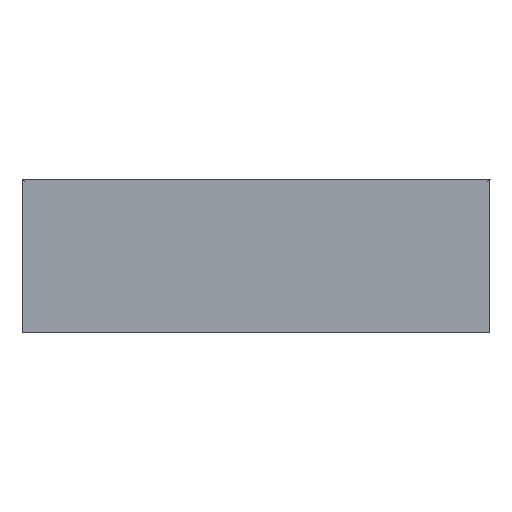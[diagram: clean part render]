
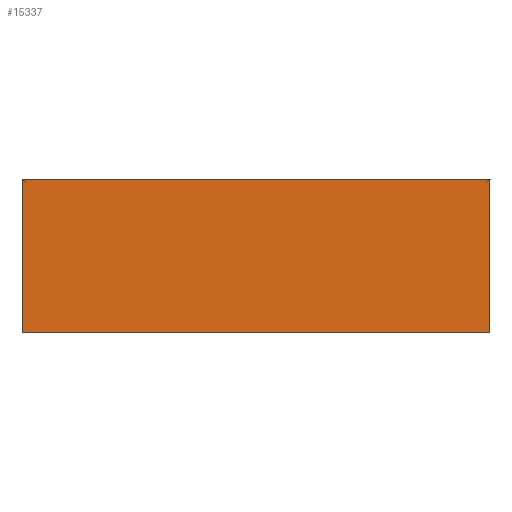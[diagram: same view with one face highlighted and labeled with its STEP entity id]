
A CAD part, left-side view. The second image highlights one B-rep face of the part: STEP entity #15337.
In plain terms, the highlighted planar face has unit normal (-1, 0, 0) as drawn and (0, -1, 0) by its records, which use the part's own axes.
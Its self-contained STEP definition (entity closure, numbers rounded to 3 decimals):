
#1142 = LINE ( 'NONE', #10775, #11389 ) ;
#1856 = VERTEX_POINT ( 'NONE', #3083 ) ;
#2357 = LINE ( 'NONE', #5429, #8246 ) ;
#2453 = DIRECTION ( 'NONE',  ( 0., 0., 1. ) ) ;
#2842 = VERTEX_POINT ( 'NONE', #21490 ) ;
#3083 = CARTESIAN_POINT ( 'NONE',  ( 275., 0., -90. ) ) ;
#3161 = ORIENTED_EDGE ( 'NONE', *, *, #9592, .F. ) ;
#4270 = DIRECTION ( 'NONE',  ( 0., 0., -1. ) ) ;
#5429 = CARTESIAN_POINT ( 'NONE',  ( 275., 0., 90. ) ) ;
#6130 = PLANE ( 'NONE',  #17715 ) ;
#6591 = CARTESIAN_POINT ( 'NONE',  ( -275., 0., -90. ) ) ;
#7534 = VECTOR ( 'NONE', #16893, 1000. ) ;
#7746 = CARTESIAN_POINT ( 'NONE',  ( 275., 0., 90. ) ) ;
#8246 = VECTOR ( 'NONE', #13550, 1000. ) ;
#9592 = EDGE_CURVE ( 'NONE', #11794, #1856, #2357, .T. ) ;
#10578 = ORIENTED_EDGE ( 'NONE', *, *, #19077, .F. ) ;
#10687 = VECTOR ( 'NONE', #13774, 1000. ) ;
#10775 = CARTESIAN_POINT ( 'NONE',  ( -275., 0., 90. ) ) ;
#11389 = VECTOR ( 'NONE', #2453, 1000. ) ;
#11794 = VERTEX_POINT ( 'NONE', #7746 ) ;
#11911 = CARTESIAN_POINT ( 'NONE',  ( -275., 0., 90. ) ) ;
#12838 = CARTESIAN_POINT ( 'NONE',  ( 0., 0., 0. ) ) ;
#13550 = DIRECTION ( 'NONE',  ( 0., 0., -1. ) ) ;
#13774 = DIRECTION ( 'NONE',  ( 1., 0., 0. ) ) ;
#14252 = DIRECTION ( 'NONE',  ( 0., -1., 0. ) ) ;
#14291 = EDGE_CURVE ( 'NONE', #21472, #2842, #1142, .T. ) ;
#14662 = ORIENTED_EDGE ( 'NONE', *, *, #14291, .F. ) ;
#14922 = LINE ( 'NONE', #6591, #7534 ) ;
#15337 = ADVANCED_FACE ( 'NONE', ( #21133 ), #6130, .T. ) ;
#16071 = ORIENTED_EDGE ( 'NONE', *, *, #20027, .F. ) ;
#16730 = LINE ( 'NONE', #11911, #10687 ) ;
#16893 = DIRECTION ( 'NONE',  ( -1., 0., 0. ) ) ;
#17715 = AXIS2_PLACEMENT_3D ( 'NONE', #12838, #14252, #4270 ) ;
#19077 = EDGE_CURVE ( 'NONE', #2842, #11794, #16730, .T. ) ;
#19700 = EDGE_LOOP ( 'NONE', ( #3161, #10578, #14662, #16071 ) ) ;
#19925 = CARTESIAN_POINT ( 'NONE',  ( -275., 0., -90. ) ) ;
#20027 = EDGE_CURVE ( 'NONE', #1856, #21472, #14922, .T. ) ;
#21133 = FACE_OUTER_BOUND ( 'NONE', #19700, .T. ) ;
#21472 = VERTEX_POINT ( 'NONE', #19925 ) ;
#21490 = CARTESIAN_POINT ( 'NONE',  ( -275., 0., 90. ) ) ;
